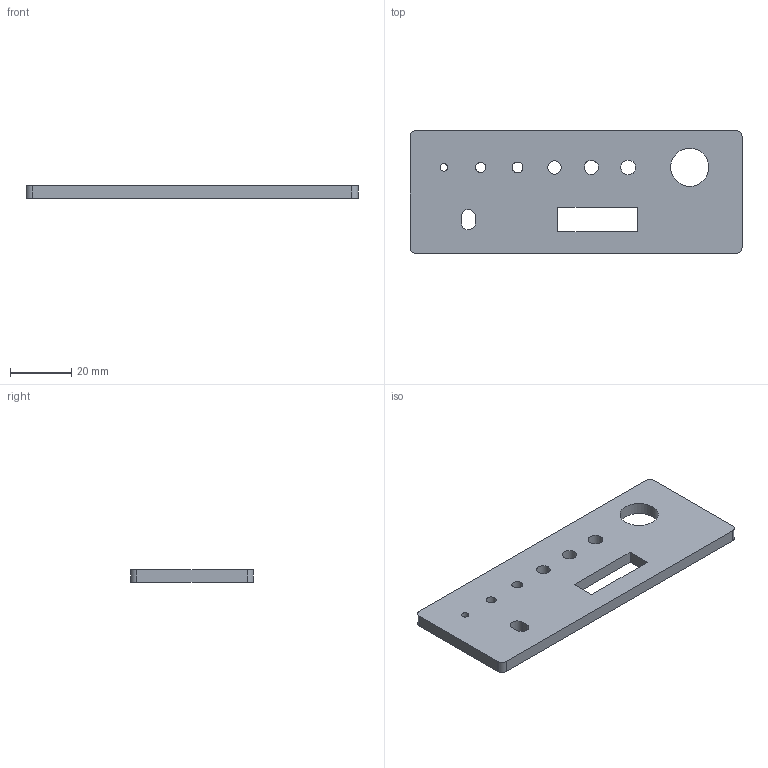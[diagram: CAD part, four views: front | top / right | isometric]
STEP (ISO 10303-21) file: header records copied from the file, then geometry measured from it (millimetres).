
FILE_DESCRIPTION(('Open CASCADE Model'),'2;1');
FILE_NAME('Open CASCADE Shape Model','2026-10-14T15:05:51',('Author'),( 'Open CASCADE'),'Open CASCADE STEP processor 7.8','Open CASCADE 7.8' ,'Unknown');
FILE_SCHEMA(('AUTOMOTIVE_DESIGN { 1 0 10303 214 1 1 1 1 }'));
Length unit declared in the file: millimetre
Products named in the file (1): Open CASCADE STEP translator 7.8 20
Bounding box: 108 x 40 x 4 mm (x, y, z)
Volume: 15566.4 mm3; surface area: 9741.9 mm2
Topology: 1 solids, 1 shells, 25 faces, 69 edges, 46 vertices
Faces by surface type: cylinder 13, plane 12
Full cylindrical faces by diameter (mm): 2.4 x1, 3.3 x1, 3.5 x1, 4.4 x1, 4.6 x1, 4.8 x1, 12.4 x1
Entity records: 1788 total; most frequent: CARTESIAN_POINT 423, DIRECTION 241, ORIENTED_EDGE 138, PCURVE 138, DEFINITIONAL_REPRESENTATION 138, LINE 131, VECTOR 131, EDGE_CURVE 69
